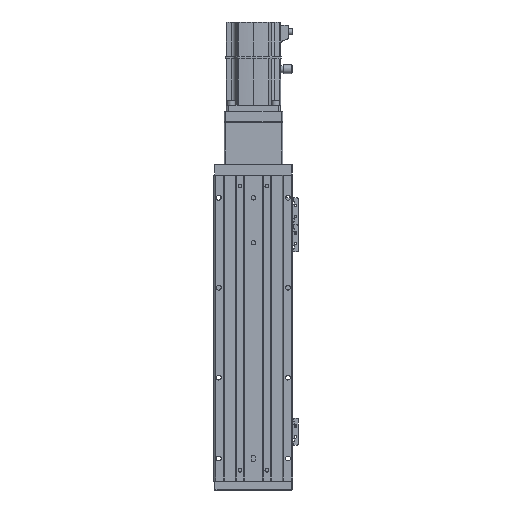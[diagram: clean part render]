
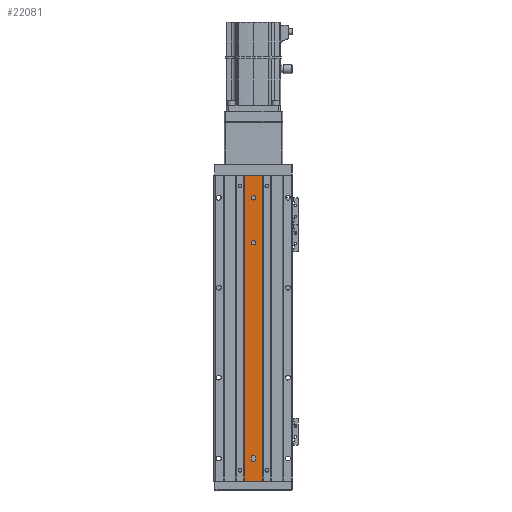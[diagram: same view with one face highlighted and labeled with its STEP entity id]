
A CAD part, front view. The second image highlights one B-rep face of the part: STEP entity #22081.
In plain terms, the highlighted planar face has unit normal (0, -1, 0).
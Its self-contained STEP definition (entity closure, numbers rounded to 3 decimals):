
#285 = VECTOR ( 'NONE', #35161, 1000. ) ;
#860 = VERTEX_POINT ( 'NONE', #10961 ) ;
#900 = DIRECTION ( 'NONE',  ( 1., 0., 0. ) ) ;
#919 = VERTEX_POINT ( 'NONE', #15470 ) ;
#1177 = AXIS2_PLACEMENT_3D ( 'NONE', #5005, #19010, #32966 ) ;
#2236 = DIRECTION ( 'NONE',  ( 0., -1., 0. ) ) ;
#2436 = DIRECTION ( 'NONE',  ( 0., -1., 0. ) ) ;
#2589 = ORIENTED_EDGE ( 'NONE', *, *, #3779, .F. ) ;
#2755 = VECTOR ( 'NONE', #39665, 1000. ) ;
#2808 = VECTOR ( 'NONE', #9771, 1000. ) ;
#3431 = EDGE_CURVE ( 'NONE', #11315, #15593, #21285, .T. ) ;
#3696 = EDGE_CURVE ( 'NONE', #16979, #8192, #10217, .T. ) ;
#3705 = EDGE_CURVE ( 'NONE', #860, #16625, #16102, .T. ) ;
#3779 = EDGE_CURVE ( 'NONE', #26259, #11315, #27202, .T. ) ;
#3860 = DIRECTION ( 'NONE',  ( 0., 0., 1. ) ) ;
#4037 = EDGE_CURVE ( 'NONE', #26259, #43301, #36309, .T. ) ;
#4276 = DIRECTION ( 'NONE',  ( 0., 0., 1. ) ) ;
#4920 = CARTESIAN_POINT ( 'NONE',  ( 10., 1., -170. ) ) ;
#4925 = EDGE_CURVE ( 'NONE', #8192, #16979, #7368, .T. ) ;
#5005 = CARTESIAN_POINT ( 'NONE',  ( 0., 1., 95. ) ) ;
#5410 = CARTESIAN_POINT ( 'NONE',  ( -10., 1., -170. ) ) ;
#5550 = EDGE_CURVE ( 'NONE', #43301, #15593, #11759, .T. ) ;
#6949 = CARTESIAN_POINT ( 'NONE',  ( -2.5, 1., 145. ) ) ;
#7169 = VERTEX_POINT ( 'NONE', #41769 ) ;
#7193 = LINE ( 'NONE', #21205, #285 ) ;
#7242 = DIRECTION ( 'NONE',  ( 0., 1., 0. ) ) ;
#7368 = CIRCLE ( 'NONE', #32994, 2.5 ) ;
#7930 = AXIS2_PLACEMENT_3D ( 'NONE', #38622, #7242, #21250 ) ;
#8192 = VERTEX_POINT ( 'NONE', #6949 ) ;
#8238 = ORIENTED_EDGE ( 'NONE', *, *, #27694, .F. ) ;
#8358 = ORIENTED_EDGE ( 'NONE', *, *, #14458, .F. ) ;
#8470 = VERTEX_POINT ( 'NONE', #43808 ) ;
#8711 = CARTESIAN_POINT ( 'NONE',  ( 10., 1., 170. ) ) ;
#8724 = CIRCLE ( 'NONE', #40175, 2.5 ) ;
#8778 = ORIENTED_EDGE ( 'NONE', *, *, #12978, .F. ) ;
#9316 = EDGE_LOOP ( 'NONE', ( #30195, #26038, #2589, #40509 ) ) ;
#9771 = DIRECTION ( 'NONE',  ( -1., 0., 0. ) ) ;
#9821 = CARTESIAN_POINT ( 'NONE',  ( 0., 1., 145. ) ) ;
#10217 = CIRCLE ( 'NONE', #35833, 2.5 ) ;
#10539 = ORIENTED_EDGE ( 'NONE', *, *, #3696, .F. ) ;
#10703 = FACE_OUTER_BOUND ( 'NONE', #9316, .T. ) ;
#10961 = CARTESIAN_POINT ( 'NONE',  ( -2.5, 1., -146. ) ) ;
#11315 = VERTEX_POINT ( 'NONE', #5410 ) ;
#11759 = LINE ( 'NONE', #25735, #2755 ) ;
#12323 = ORIENTED_EDGE ( 'NONE', *, *, #4925, .F. ) ;
#12613 = EDGE_CURVE ( 'NONE', #919, #8470, #20917, .T. ) ;
#12777 = DIRECTION ( 'NONE',  ( 1., 0., 0. ) ) ;
#12978 = EDGE_CURVE ( 'NONE', #16625, #7169, #21702, .T. ) ;
#14132 = FACE_BOUND ( 'NONE', #30211, .T. ) ;
#14458 = EDGE_CURVE ( 'NONE', #7169, #40938, #8724, .T. ) ;
#15470 = CARTESIAN_POINT ( 'NONE',  ( -2.5, 1., 95. ) ) ;
#15593 = VERTEX_POINT ( 'NONE', #38471 ) ;
#15956 = CARTESIAN_POINT ( 'NONE',  ( 10., 1., -170. ) ) ;
#15982 = AXIS2_PLACEMENT_3D ( 'NONE', #18322, #32281, #900 ) ;
#16102 = CIRCLE ( 'NONE', #41665, 2.5 ) ;
#16224 = DIRECTION ( 'NONE',  ( 1., 0., 0. ) ) ;
#16424 = DIRECTION ( 'NONE',  ( 1., 0., 0. ) ) ;
#16625 = VERTEX_POINT ( 'NONE', #35853 ) ;
#16979 = VERTEX_POINT ( 'NONE', #38302 ) ;
#18322 = CARTESIAN_POINT ( 'NONE',  ( 0., 1., 95. ) ) ;
#18922 = DIRECTION ( 'NONE',  ( 0., 0., 1. ) ) ;
#19010 = DIRECTION ( 'NONE',  ( 0., -1., 0. ) ) ;
#19641 = VECTOR ( 'NONE', #4276, 1000. ) ;
#20917 = CIRCLE ( 'NONE', #1177, 2.5 ) ;
#21205 = CARTESIAN_POINT ( 'NONE',  ( -2.5, 1., -146. ) ) ;
#21250 = DIRECTION ( 'NONE',  ( -1., 0., 0. ) ) ;
#21285 = LINE ( 'NONE', #35239, #29217 ) ;
#21702 = LINE ( 'NONE', #35662, #19641 ) ;
#22081 = ADVANCED_FACE ( 'NONE', ( #14132, #28112, #42070, #10703 ), #24669, .F. ) ;
#23806 = DIRECTION ( 'NONE',  ( 0., -1., 0. ) ) ;
#24111 = ORIENTED_EDGE ( 'NONE', *, *, #3705, .F. ) ;
#24669 = PLANE ( 'NONE',  #7930 ) ;
#25735 = CARTESIAN_POINT ( 'NONE',  ( -10., 1., 170. ) ) ;
#26038 = ORIENTED_EDGE ( 'NONE', *, *, #3431, .F. ) ;
#26259 = VERTEX_POINT ( 'NONE', #15956 ) ;
#27084 = VECTOR ( 'NONE', #18922, 1000. ) ;
#27202 = LINE ( 'NONE', #41138, #2808 ) ;
#27694 = EDGE_CURVE ( 'NONE', #40938, #860, #7193, .T. ) ;
#28112 = FACE_BOUND ( 'NONE', #37187, .T. ) ;
#29217 = VECTOR ( 'NONE', #3860, 1000. ) ;
#30179 = CARTESIAN_POINT ( 'NONE',  ( 0., 1., -146. ) ) ;
#30195 = ORIENTED_EDGE ( 'NONE', *, *, #5550, .T. ) ;
#30211 = EDGE_LOOP ( 'NONE', ( #10539, #12323 ) ) ;
#31287 = CARTESIAN_POINT ( 'NONE',  ( -2.5, 1., -144. ) ) ;
#32281 = DIRECTION ( 'NONE',  ( 0., -1., 0. ) ) ;
#32966 = DIRECTION ( 'NONE',  ( 1., 0., 0. ) ) ;
#32994 = AXIS2_PLACEMENT_3D ( 'NONE', #9821, #23806, #37748 ) ;
#33619 = CARTESIAN_POINT ( 'NONE',  ( 0., 1., 145. ) ) ;
#33829 = CARTESIAN_POINT ( 'NONE',  ( 0., 1., -144. ) ) ;
#34627 = EDGE_LOOP ( 'NONE', ( #43829, #41231 ) ) ;
#35161 = DIRECTION ( 'NONE',  ( 0., 0., -1. ) ) ;
#35239 = CARTESIAN_POINT ( 'NONE',  ( -10., 1., -170. ) ) ;
#35662 = CARTESIAN_POINT ( 'NONE',  ( 2.5, 1., -146. ) ) ;
#35725 = CIRCLE ( 'NONE', #15982, 2.5 ) ;
#35833 = AXIS2_PLACEMENT_3D ( 'NONE', #33619, #2236, #16224 ) ;
#35853 = CARTESIAN_POINT ( 'NONE',  ( 2.5, 1., -146. ) ) ;
#36309 = LINE ( 'NONE', #4920, #27084 ) ;
#37187 = EDGE_LOOP ( 'NONE', ( #8778, #24111, #8238, #8358 ) ) ;
#37748 = DIRECTION ( 'NONE',  ( 1., 0., 0. ) ) ;
#38302 = CARTESIAN_POINT ( 'NONE',  ( 2.5, 1., 145. ) ) ;
#38471 = CARTESIAN_POINT ( 'NONE',  ( -10., 1., 170. ) ) ;
#38622 = CARTESIAN_POINT ( 'NONE',  ( -10., 1., -170. ) ) ;
#39665 = DIRECTION ( 'NONE',  ( -1., 0., 0. ) ) ;
#40175 = AXIS2_PLACEMENT_3D ( 'NONE', #33829, #2436, #16424 ) ;
#40509 = ORIENTED_EDGE ( 'NONE', *, *, #4037, .T. ) ;
#40938 = VERTEX_POINT ( 'NONE', #31287 ) ;
#41138 = CARTESIAN_POINT ( 'NONE',  ( -10., 1., -170. ) ) ;
#41231 = ORIENTED_EDGE ( 'NONE', *, *, #12613, .F. ) ;
#41665 = AXIS2_PLACEMENT_3D ( 'NONE', #30179, #44131, #12777 ) ;
#41769 = CARTESIAN_POINT ( 'NONE',  ( 2.5, 1., -144. ) ) ;
#42070 = FACE_BOUND ( 'NONE', #34627, .T. ) ;
#42427 = EDGE_CURVE ( 'NONE', #8470, #919, #35725, .T. ) ;
#43301 = VERTEX_POINT ( 'NONE', #8711 ) ;
#43808 = CARTESIAN_POINT ( 'NONE',  ( 2.5, 1., 95. ) ) ;
#43829 = ORIENTED_EDGE ( 'NONE', *, *, #42427, .F. ) ;
#44131 = DIRECTION ( 'NONE',  ( 0., -1., 0. ) ) ;
